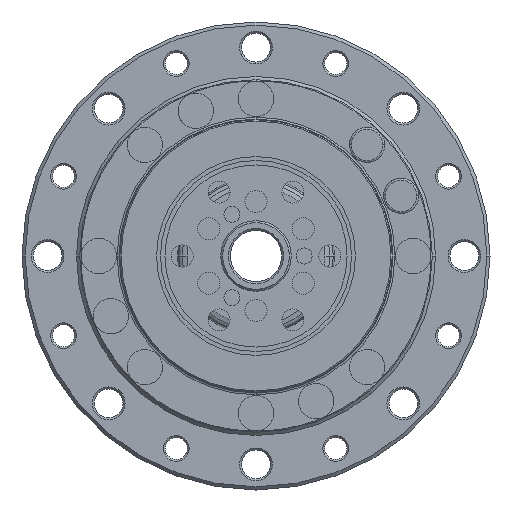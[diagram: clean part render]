
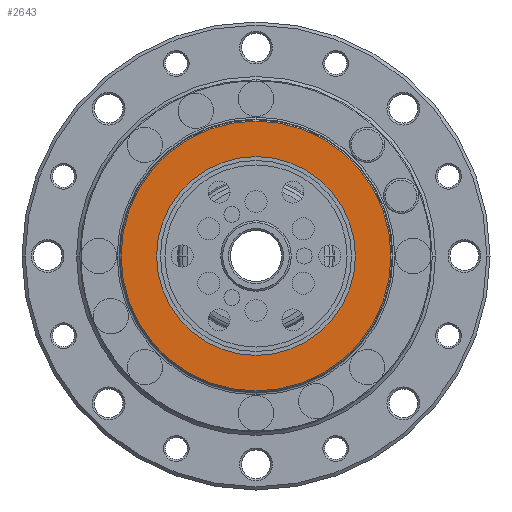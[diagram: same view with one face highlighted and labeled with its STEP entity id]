
A CAD part, front view. The second image highlights one B-rep face of the part: STEP entity #2643.
In plain terms, the highlighted planar face has unit normal (0, -1, 0).
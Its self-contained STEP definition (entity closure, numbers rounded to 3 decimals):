
#1070=CARTESIAN_POINT('',(0.,-16.,0.));
#1071=DIRECTION('',(0.,-1.,0.));
#1072=DIRECTION('',(0.,0.,-1.));
#1073=AXIS2_PLACEMENT_3D('',#1070,#1071,#1072);
#1078=CARTESIAN_POINT('',(0.,-16.,0.));
#1079=DIRECTION('',(0.,-1.,0.));
#1080=DIRECTION('',(0.,0.,1.));
#1081=AXIS2_PLACEMENT_3D('',#1078,#1079,#1080);
#1086=CARTESIAN_POINT('',(0.,-16.,0.));
#1087=DIRECTION('',(0.,1.,0.));
#1088=DIRECTION('',(0.,0.,-1.));
#1089=AXIS2_PLACEMENT_3D('',#1086,#1087,#1088);
#1094=CARTESIAN_POINT('',(0.,-16.,0.));
#1095=DIRECTION('',(0.,1.,0.));
#1096=DIRECTION('',(0.,0.,1.));
#1097=AXIS2_PLACEMENT_3D('',#1094,#1095,#1096);
#1997=CARTESIAN_POINT('',(0.,-16.,15.5));
#1999=VERTEX_POINT('',#1997);
#2001=CARTESIAN_POINT('',(0.,-16.,-15.5));
#2003=VERTEX_POINT('',#2001);
#2032=CARTESIAN_POINT('',(0.,-16.,-21.05));
#2033=VERTEX_POINT('',#2032);
#2034=CARTESIAN_POINT('',(0.,-16.,21.05));
#2035=VERTEX_POINT('',#2034);
#2629=CARTESIAN_POINT('',(-18.,-16.,0.));
#2630=DIRECTION('',(0.,-1.,0.));
#2631=DIRECTION('',(0.,0.,-1.));
#2632=AXIS2_PLACEMENT_3D('',#2629,#2630,#2631);
#2633=PLANE('',#2632);
#2634=ORIENTED_EDGE('',*,*,#2623,.F.);
#2635=ORIENTED_EDGE('',*,*,#2609,.F.);
#2636=EDGE_LOOP('',(#2634,#2635));
#2637=FACE_OUTER_BOUND('',#2636,.F.);
#2639=ORIENTED_EDGE('',*,*,#2638,.F.);
#2640=ORIENTED_EDGE('',*,*,#2249,.F.);
#2641=EDGE_LOOP('',(#2639,#2640));
#2642=FACE_BOUND('',#2641,.F.);
#1074=CIRCLE('',#1073,21.05);
#1082=CIRCLE('',#1081,21.05);
#1090=CIRCLE('',#1089,15.5);
#1098=CIRCLE('',#1097,15.5);
#2249=EDGE_CURVE('',#1999,#2003,#1098,.T.);
#2609=EDGE_CURVE('',#2035,#2033,#1082,.T.);
#2623=EDGE_CURVE('',#2033,#2035,#1074,.T.);
#2638=EDGE_CURVE('',#2003,#1999,#1090,.T.);
#2643=ADVANCED_FACE('',(#2637,#2642),#2633,.T.);
